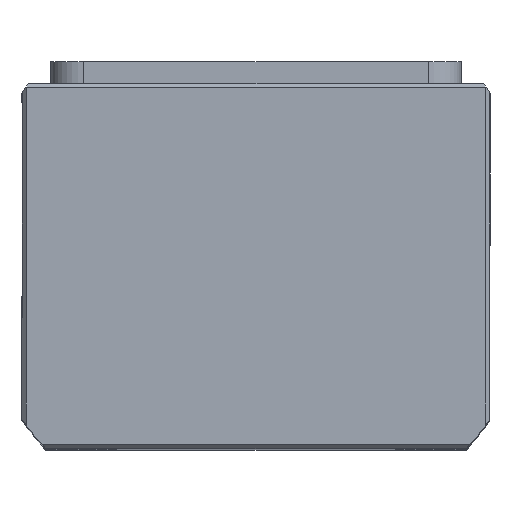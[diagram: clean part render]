
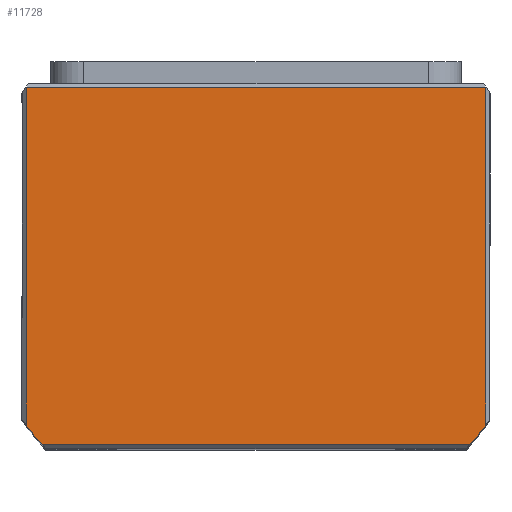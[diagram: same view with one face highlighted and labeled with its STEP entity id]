
A CAD part, top view. The second image highlights one B-rep face of the part: STEP entity #11728.
In plain terms, the highlighted planar face has unit normal (0, 0, 1) as drawn and (0, 0, -1) by its records, which use the part's own axes.
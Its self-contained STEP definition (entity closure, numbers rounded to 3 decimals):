
#158 = LINE ( 'NONE', #1731, #628 ) ;
#628 = VECTOR ( 'NONE', #12058, 1000. ) ;
#781 = ORIENTED_EDGE ( 'NONE', *, *, #18612, .T. ) ;
#916 = ORIENTED_EDGE ( 'NONE', *, *, #2225, .F. ) ;
#1421 = DIRECTION ( 'NONE',  ( 0., 0., 1. ) ) ;
#1453 = CARTESIAN_POINT ( 'NONE',  ( 56., 38.661, 0. ) ) ;
#1731 = CARTESIAN_POINT ( 'NONE',  ( 0., 43.5, 0. ) ) ;
#2225 = EDGE_CURVE ( 'NONE', #8816, #16381, #10030, .T. ) ;
#2270 = ORIENTED_EDGE ( 'NONE', *, *, #10783, .T. ) ;
#3292 = DIRECTION ( 'NONE',  ( 1., 0., 0. ) ) ;
#3621 = CARTESIAN_POINT ( 'NONE',  ( 56., 0., 0. ) ) ;
#3996 = VECTOR ( 'NONE', #12471, 1000. ) ;
#4310 = LINE ( 'NONE', #5563, #15646 ) ;
#4381 = VERTEX_POINT ( 'NONE', #14037 ) ;
#4450 = VERTEX_POINT ( 'NONE', #1453 ) ;
#5122 = LINE ( 'NONE', #12592, #12514 ) ;
#5563 = CARTESIAN_POINT ( 'NONE',  ( 0., -43.5, 0. ) ) ;
#5874 = CARTESIAN_POINT ( 'NONE',  ( 52.098, 43.5, 0. ) ) ;
#6158 = DIRECTION ( 'NONE',  ( 0., 0., 1. ) ) ;
#6450 = EDGE_LOOP ( 'NONE', ( #16973, #781, #15327, #8372, #916, #2270 ) ) ;
#6972 = CARTESIAN_POINT ( 'NONE',  ( -52.098, 43.5, 0. ) ) ;
#7391 = CARTESIAN_POINT ( 'NONE',  ( 0., -2.5, 0. ) ) ;
#7746 = AXIS2_PLACEMENT_3D ( 'NONE', #7391, #17713, #8856 ) ;
#8372 = ORIENTED_EDGE ( 'NONE', *, *, #8495, .T. ) ;
#8495 = EDGE_CURVE ( 'NONE', #4381, #16381, #5122, .T. ) ;
#8816 = VERTEX_POINT ( 'NONE', #6972 ) ;
#8856 = DIRECTION ( 'NONE',  ( 1., 0., 0. ) ) ;
#9147 = CARTESIAN_POINT ( 'NONE',  ( -56., 38.661, 0. ) ) ;
#9671 = EDGE_CURVE ( 'NONE', #4450, #10615, #17357, .T. ) ;
#10030 = CIRCLE ( 'NONE', #17268, 69.5 ) ;
#10251 = CARTESIAN_POINT ( 'NONE',  ( 0., 0., 0. ) ) ;
#10615 = VERTEX_POINT ( 'NONE', #5874 ) ;
#10783 = EDGE_CURVE ( 'NONE', #8816, #10615, #158, .T. ) ;
#11678 = EDGE_CURVE ( 'NONE', #15138, #4381, #4310, .T. ) ;
#11702 = FACE_OUTER_BOUND ( 'NONE', #6450, .T. ) ;
#11728 = ADVANCED_FACE ( 'NONE', ( #11702 ), #17636, .F. ) ;
#11745 = DIRECTION ( 'NONE',  ( 1., 0., 0. ) ) ;
#11854 = LINE ( 'NONE', #3621, #3996 ) ;
#12058 = DIRECTION ( 'NONE',  ( 1., 0., 0. ) ) ;
#12471 = DIRECTION ( 'NONE',  ( 0., -1., 0. ) ) ;
#12514 = VECTOR ( 'NONE', #14085, 1000. ) ;
#12592 = CARTESIAN_POINT ( 'NONE',  ( -56., 0., 0. ) ) ;
#14037 = CARTESIAN_POINT ( 'NONE',  ( -56., -43.5, 0. ) ) ;
#14062 = CARTESIAN_POINT ( 'NONE',  ( 56., -43.5, 0. ) ) ;
#14085 = DIRECTION ( 'NONE',  ( 0., 1., 0. ) ) ;
#14685 = DIRECTION ( 'NONE',  ( -1., 0., 0. ) ) ;
#15138 = VERTEX_POINT ( 'NONE', #14062 ) ;
#15327 = ORIENTED_EDGE ( 'NONE', *, *, #11678, .T. ) ;
#15646 = VECTOR ( 'NONE', #14685, 1000. ) ;
#16381 = VERTEX_POINT ( 'NONE', #9147 ) ;
#16445 = CARTESIAN_POINT ( 'NONE',  ( 0., -2.5, 0. ) ) ;
#16913 = AXIS2_PLACEMENT_3D ( 'NONE', #10251, #1421, #11745 ) ;
#16973 = ORIENTED_EDGE ( 'NONE', *, *, #9671, .F. ) ;
#17268 = AXIS2_PLACEMENT_3D ( 'NONE', #16445, #6158, #3292 ) ;
#17357 = CIRCLE ( 'NONE', #7746, 69.5 ) ;
#17636 = PLANE ( 'NONE',  #16913 ) ;
#17713 = DIRECTION ( 'NONE',  ( 0., 0., 1. ) ) ;
#18612 = EDGE_CURVE ( 'NONE', #4450, #15138, #11854, .T. ) ;
